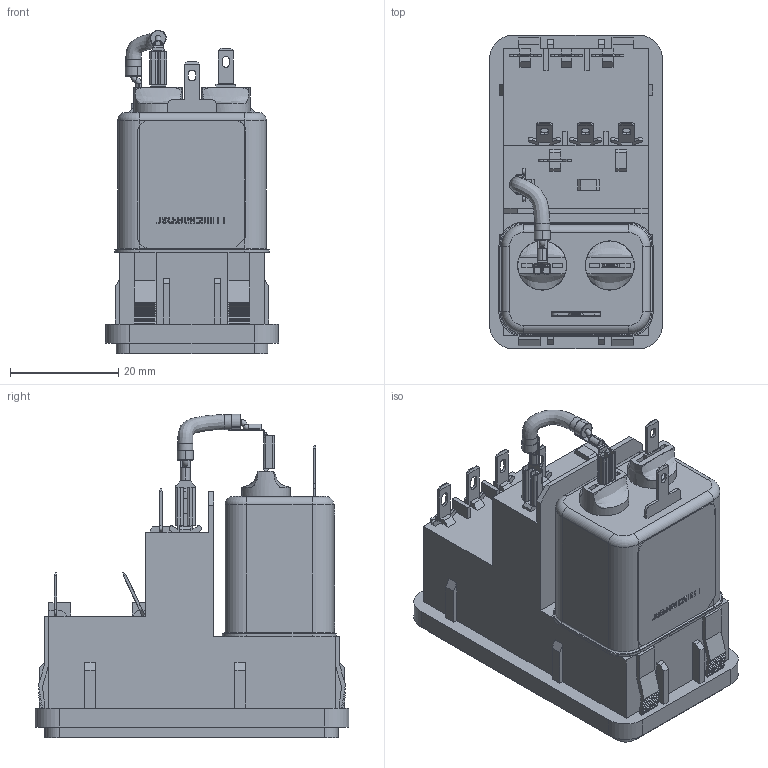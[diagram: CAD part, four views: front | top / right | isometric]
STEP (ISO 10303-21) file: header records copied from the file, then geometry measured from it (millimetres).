
FILE_DESCRIPTION((''),'2;1');
FILE_NAME('D:\_ PRODUCT\New project\3D request\FN370\FN370.stp','2012-10-16T17:13:17',('sayan.penton'),(''),'Autodesk Inventor 2010','Autodesk Inventor 2010','');
FILE_SCHEMA(('AUTOMOTIVE_DESIGN { 1 0 10303 214 1 1 1 1 }'));
Length unit declared in the file: millimetre
Products named in the file (1): Part5
Bounding box: 32 x 58 x 59.82 mm (x, y, z)
Volume: 27755.3 mm3; surface area: 22899.4 mm2
Topology: 3 solids, 4 shells, 1170 faces, 3306 edges, 2150 vertices
Faces by surface type: plane 766, bspline 199, cylinder 193, torus 12
Full cylindrical faces by diameter (mm): 1 x2, 1.2 x1, 2.8 x2, 9 x1, 9.1 x2, 12.5 x1
Entity records: 47243 total; most frequent: CARTESIAN_POINT 16230, ORIENTED_EDGE 6564, DIRECTION 5532, EDGE_CURVE 3283, VECTOR 2652, LINE 2652, VERTEX_POINT 2137, AXIS2_PLACEMENT_3D 1440
